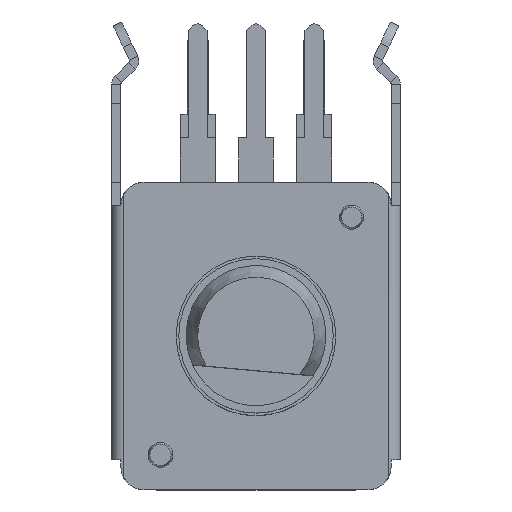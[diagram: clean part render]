
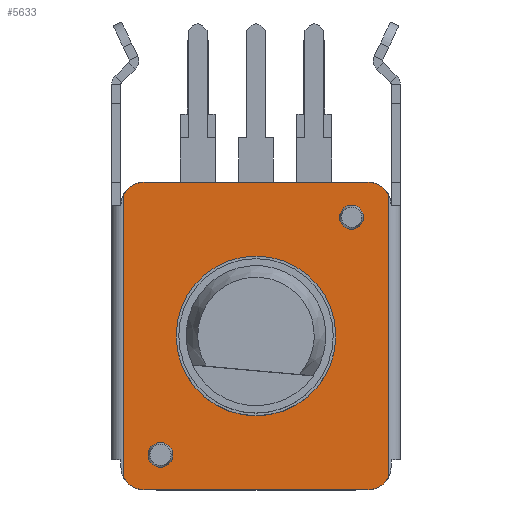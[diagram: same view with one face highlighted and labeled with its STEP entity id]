
A CAD part, top view. The second image highlights one B-rep face of the part: STEP entity #5633.
In plain terms, the highlighted planar face has unit normal (0, 0, 1).
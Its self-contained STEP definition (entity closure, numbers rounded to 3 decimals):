
#381=LINE($,#8610,#1061);
#431=LINE($,#8744,#1111);
#435=LINE($,#8767,#1115);
#436=LINE($,#8770,#1116);
#1061=VECTOR($,#7018,12.072);
#1111=VECTOR($,#7118,12.072);
#1115=VECTOR($,#7138,9.6);
#1116=VECTOR($,#7141,9.6);
#1522=PLANE($,#6047);
#1804=FACE_OUTER_BOUND($,#2099,.T.);
#2099=EDGE_LOOP($,(#4519,#4520,#4521,#4522,#4523,#4524,#4525,#4526));
#2288=CIRCLE($,#6017,1.);
#2296=CIRCLE($,#6042,1.);
#2298=CIRCLE($,#6045,1.);
#2300=CIRCLE($,#6048,1.);
#2635=VERTEX_POINT($,#8602);
#2636=VERTEX_POINT($,#8609);
#2638=VERTEX_POINT($,#8620);
#2682=VERTEX_POINT($,#8736);
#2683=VERTEX_POINT($,#8743);
#2685=VERTEX_POINT($,#8755);
#2687=VERTEX_POINT($,#8761);
#2689=VERTEX_POINT($,#8768);
#3313=EDGE_CURVE($,#2635,#2636,#381,.T.);
#3317=EDGE_CURVE($,#2638,#2635,#2288,.T.);
#3373=EDGE_CURVE($,#2682,#2683,#431,.T.);
#3377=EDGE_CURVE($,#2683,#2685,#2296,.T.);
#3380=EDGE_CURVE($,#2636,#2687,#2298,.T.);
#3383=EDGE_CURVE($,#2685,#2638,#435,.T.);
#3384=EDGE_CURVE($,#2689,#2682,#2300,.T.);
#3385=EDGE_CURVE($,#2687,#2689,#436,.T.);
#4519=ORIENTED_EDGE($,*,*,#3313,.F.);
#4520=ORIENTED_EDGE($,*,*,#3317,.F.);
#4521=ORIENTED_EDGE($,*,*,#3383,.F.);
#4522=ORIENTED_EDGE($,*,*,#3377,.F.);
#4523=ORIENTED_EDGE($,*,*,#3373,.F.);
#4524=ORIENTED_EDGE($,*,*,#3384,.F.);
#4525=ORIENTED_EDGE($,*,*,#3385,.F.);
#4526=ORIENTED_EDGE($,*,*,#3380,.F.);
#5633=ADVANCED_FACE($,(#1804),#1522,.T.);
#6017=AXIS2_PLACEMENT_3D($,#8622,#7024,#7025);
#6042=AXIS2_PLACEMENT_3D($,#8756,#7124,#7125);
#6045=AXIS2_PLACEMENT_3D($,#8762,#7131,#7132);
#6047=AXIS2_PLACEMENT_3D($,#8766,#7136,#7137);
#6048=AXIS2_PLACEMENT_3D($,#8769,#7139,#7140);
#7018=DIRECTION($,(0.,1.,0.));
#7024=DIRECTION('center_axis',(0.,0.,
-1.));
#7025=DIRECTION('ref_axis',(-0.707,-0.707,0.));
#7118=DIRECTION($,(0.,-1.,0.));
#7124=DIRECTION('center_axis',(0.,0.,
-1.));
#7125=DIRECTION('ref_axis',(0.707,-0.707,0.));
#7131=DIRECTION('center_axis',(0.,0.,
-1.));
#7132=DIRECTION('ref_axis',(-0.707,0.707,0.));
#7136=DIRECTION('center_axis',(0.,0.,
1.));
#7137=DIRECTION('ref_axis',(1.,0.,0.));
#7138=DIRECTION($,(-1.,0.,0.));
#7139=DIRECTION('center_axis',(0.,0.,
-1.));
#7140=DIRECTION('ref_axis',(0.707,0.707,0.));
#7141=DIRECTION($,(1.,0.,0.));
#8602=CARTESIAN_POINT('',(-5.7,-6.036,6.1));
#8609=CARTESIAN_POINT('',(-5.7,6.036,6.1));
#8610=CARTESIAN_POINT($,(-5.7,0.,6.1));
#8620=CARTESIAN_POINT('',(-4.8,-6.6,6.1));
#8622=CARTESIAN_POINT('Origin',(-4.8,-5.6,6.1));
#8736=CARTESIAN_POINT('',(5.7,6.036,6.1));
#8743=CARTESIAN_POINT('',(5.7,-6.036,6.1));
#8744=CARTESIAN_POINT($,(5.7,0.,6.1));
#8755=CARTESIAN_POINT('',(4.8,-6.6,6.1));
#8756=CARTESIAN_POINT('Origin',(4.8,-5.6,6.1));
#8761=CARTESIAN_POINT('',(-4.8,6.6,6.1));
#8762=CARTESIAN_POINT('Origin',(-4.8,5.6,6.1));
#8766=CARTESIAN_POINT('Origin',(0.,0.,
6.1));
#8767=CARTESIAN_POINT($,(5.8,-6.6,6.1));
#8768=CARTESIAN_POINT('',(4.8,6.6,6.1));
#8769=CARTESIAN_POINT('Origin',(4.8,5.6,6.1));
#8770=CARTESIAN_POINT($,(-5.8,6.6,6.1));
